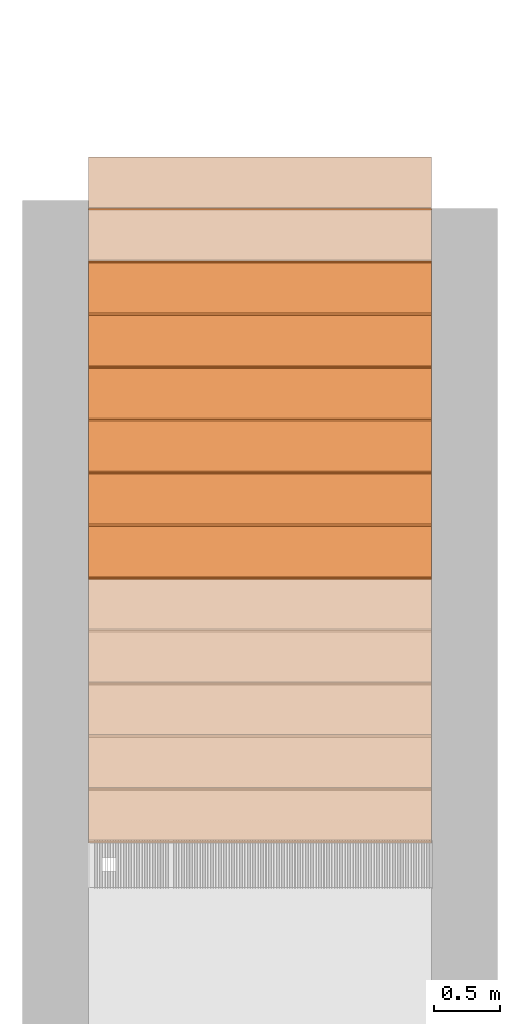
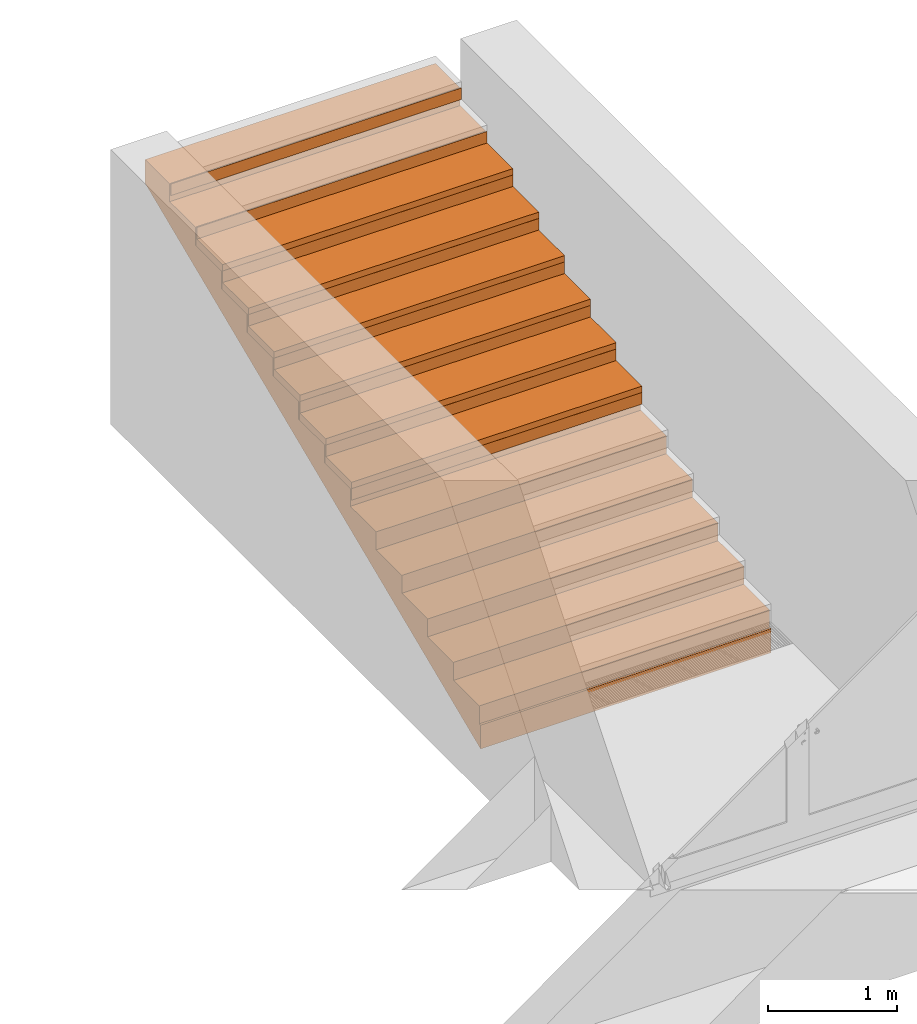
# One storey, part 123 of 127: 15 proxies, 1 element without a shape of its own.
"""IFC2X3 building model written with IfcOpenShell, lengths in millimetres."""

from ifc_helpers import new_model, entity, si_unit, converted_unit, derived_unit, money_unit, direction, frame, origin_with_axes, place, context, subcontext, project, spatial, faceted_brep, material, type_object, element, aggregate, save


model = new_model("IFC2X3")

# Units and contexts
model_context = context("Model", 3, precision=1e-05, world=origin_with_axes(), true_north=direction((0.0, 1.0)))
body_context = subcontext(model_context, "Body", "Model", "MODEL_VIEW")
ifc_project = project(units=[si_unit("LENGTHUNIT", "METRE", prefix="MILLI"), si_unit("AREAUNIT", "SQUARE_METRE"), si_unit("VOLUMEUNIT", "CUBIC_METRE"), converted_unit("PLANEANGLEUNIT", "DEGREE", entity("IfcPlaneAngleMeasure", 0.0174532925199), si_unit("PLANEANGLEUNIT", "RADIAN"), dimensions=[0, 0, 0, 0, 0, 0, 0]), si_unit("SOLIDANGLEUNIT", "STERADIAN"), money_unit("EUR"), converted_unit("TIMEUNIT", "Year", entity("IfcTimeMeasure", 31556926.0), si_unit("TIMEUNIT", "SECOND"), dimensions=[0, 0, 1, 0, 0, 0, 0]), si_unit("MASSUNIT", "GRAM", prefix="KILO"), si_unit("THERMODYNAMICTEMPERATUREUNIT", "DEGREE_CELSIUS"), si_unit("LUMINOUSINTENSITYUNIT", "LUMEN"), si_unit("ENERGYUNIT", "JOULE", prefix="MEGA"), derived_unit("THERMALCONDUCTANCEUNIT", [(si_unit("POWERUNIT", "WATT"), 1), (si_unit("LENGTHUNIT", "METRE"), -1), (si_unit("THERMODYNAMICTEMPERATUREUNIT", "KELVIN"), -1)]), derived_unit("SPECIFICHEATCAPACITYUNIT", [(si_unit("ENERGYUNIT", "JOULE"), 1), (si_unit("MASSUNIT", "GRAM", prefix="KILO"), -1), (si_unit("THERMODYNAMICTEMPERATUREUNIT", "KELVIN"), -1)]), derived_unit("MASSDENSITYUNIT", [(si_unit("MASSUNIT", "GRAM", prefix="KILO"), 1), (si_unit("VOLUMEUNIT", "CUBIC_METRE"), -1)])], contexts=[model_context])

# Site, building, storey
site_placement = place(None, origin_with_axes())
site = spatial("IfcSite", under=ifc_project, at=site_placement, Name="Site", CompositionType="ELEMENT")
building_placement = place(site_placement, origin_with_axes())
building = spatial("IfcBuilding", under=site, at=building_placement, Name="Building", CompositionType="ELEMENT")
storey_placement = place(building_placement, origin_with_axes())
storey = spatial("IfcBuildingStorey", under=building, at=storey_placement, Name="1 KORRUS", CompositionType="ELEMENT", Elevation=0.0)

# Stair, proxies
stair_placement = place(storey_placement, frame((97308.5591363, 50021.275071, 0.0), z_axis=(0.0, 0.0, 1.0), x_axis=(1.0, 0.0, 0.0)))
stair = element("IfcStair", 1, at=stair_placement, inside=storey, Name="TR 7", ShapeType="STRAIGHT_RUN_STAIR")
ifc_material = material(Name="Betoon - Ol.Olev konstruktsioon")
building_element_proxy_type_1 = type_object("IfcBuildingElementProxyType", Name="BETOON TREPP", PredefinedType="NOTDEFINED")
proxy_1_placement = place(stair_placement, origin_with_axes())
proxy_1 = element("IfcBuildingElementProxy", 2, at=proxy_1_placement, type_object=building_element_proxy_type_1, material=ifc_material, Name="Betoon - Ol.Olev konstruktsioon;  Objekti nimi:", context=body_context, shape_type="Brep", body=[
    faceted_brep([(2600.0, 5120.0, 1870.52931979), (2600.0, 5160.0, 1887.45239672), (2600.0, 5200.0, 1904.37547364), (2600.0, 5200.0, 2130.0), (2600.0, 4820.0, 2130.0), (2600.0, 4820.0, 1960.76923077), (2600.0, 4420.0, 1960.76923077), (2600.0, 4420.0, 1791.53846154), (2600.0, 4020.0, 1791.53846154), (2600.0, 4020.0, 1622.30769231), (2600.0, 3620.0, 1622.30769231), (2600.0, 3620.0, 1453.07692308), (2600.0, 3220.0, 1453.07692308), (2600.0, 3220.0, 1283.84615385), (2600.0, 2820.0, 1283.84615385), (2600.0, 2820.0, 1114.61538462), (2600.0, 2420.0, 1114.61538462), (2600.0, 2420.0, 945.384615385), (2600.0, 2020.0, 945.384615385), (2600.0, 2020.0, 776.153846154), (2600.0, 1620.0, 776.153846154), (2600.0, 1620.0, 606.923076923), (2600.0, 1220.0, 606.923076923), (2600.0, 1220.0, 437.692307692), (2600.0, 820.0, 437.692307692), (2600.0, 820.0, 268.461538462), (2600.0, 420.0, 268.461538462), (2600.0, 420.0, 99.2307692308), (2600.0, 20.0, 99.2307692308), (2600.0, 20.0, -70.0), (2600.0, 0.0, -70.0), (2600.0, 0.0, -295.624526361), (2600.0, 40.0, -278.701449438), (2600.0, 80.0, -261.778372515), (2600.0, 120.0, -244.855295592), (2600.0, 160.0, -227.932218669), (2600.0, 200.0, -211.009141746), (2600.0, 240.0, -194.086064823), (2600.0, 280.0, -177.1629879), (2600.0, 320.0, -160.239910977), (2600.0, 360.0, -143.316834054), (2600.0, 400.0, -126.393757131), (2600.0, 450.0, -105.239910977), (2600.0, 500.0, -84.086064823), (2600.0, 550.0, -62.9322186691), (2600.0, 600.0, -41.7783725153), (2600.0, 650.0, -20.6245263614), (2600.0, 700.0, 0.529319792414), (2600.0, 750.0, 21.6831659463), (2600.0, 800.0, 42.8370121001), (2600.0, 840.0, 59.7600890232), (2600.0, 880.0, 76.6831659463), (2600.0, 920.0, 93.6062428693), (2600.0, 960.0, 110.529319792), (2600.0, 1000.0, 127.452396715), (2600.0, 1040.0, 144.375473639), (2600.0, 1080.0, 161.298550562), (2600.0, 1120.0, 178.221627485), (2600.0, 1160.0, 195.144704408), (2600.0, 1200.0, 212.067781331), (2600.0, 1250.0, 233.221627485), (2600.0, 1300.0, 254.375473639), (2600.0, 1350.0, 275.529319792), (2600.0, 1400.0, 296.683165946), (2600.0, 1450.0, 317.8370121), (2600.0, 1500.0, 338.990858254), (2600.0, 1550.0, 360.144704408), (2600.0, 1600.0, 381.298550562), (2600.0, 1650.0, 402.452396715), (2600.0, 1700.0, 423.606242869), (2600.0, 1750.0, 444.760089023), (2600.0, 1800.0, 465.913935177), (2600.0, 1850.0, 487.067781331), (2600.0, 1900.0, 508.221627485), (2600.0, 1950.0, 529.375473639), (2600.0, 2000.0, 550.529319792), (2600.0, 2040.0, 567.452396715), (2600.0, 2080.0, 584.375473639), (2600.0, 2120.0, 601.298550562), (2600.0, 2160.0, 618.221627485), (2600.0, 2200.0, 635.144704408), (2600.0, 2240.0, 652.067781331), (2600.0, 2280.0, 668.990858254), (2600.0, 2320.0, 685.913935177), (2600.0, 2360.0, 702.8370121), (2600.0, 2400.0, 719.760089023), (2600.0, 2450.0, 740.913935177), (2600.0, 2500.0, 762.067781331), (2600.0, 2550.0, 783.221627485), (2600.0, 2600.0, 804.375473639), (2600.0, 2650.0, 825.529319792), (2600.0, 2700.0, 846.683165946), (2600.0, 2750.0, 867.8370121), (2600.0, 2800.0, 888.990858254), (2600.0, 2850.0, 910.144704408), (2600.0, 2900.0, 931.298550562), (2600.0, 2950.0, 952.452396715), (2600.0, 3000.0, 973.606242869), (2600.0, 3050.0, 994.760089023), (2600.0, 3100.0, 1015.91393518), (2600.0, 3150.0, 1037.06778133), (2600.0, 3200.0, 1058.22162748), (2600.0, 3250.0, 1079.37547364), (2600.0, 3300.0, 1100.52931979), (2600.0, 3350.0, 1121.68316595), (2600.0, 3400.0, 1142.8370121), (2600.0, 3450.0, 1163.99085825), (2600.0, 3500.0, 1185.14470441), (2600.0, 3550.0, 1206.29855056), (2600.0, 3600.0, 1227.45239672), (2600.0, 3650.0, 1248.60624287), (2600.0, 3700.0, 1269.76008902), (2600.0, 3750.0, 1290.91393518), (2600.0, 3800.0, 1312.06778133), (2600.0, 3850.0, 1333.22162748), (2600.0, 3900.0, 1354.37547364), (2600.0, 3950.0, 1375.52931979), (2600.0, 4000.0, 1396.68316595), (2600.0, 4040.0, 1413.60624287), (2600.0, 4080.0, 1430.52931979), (2600.0, 4120.0, 1447.45239672), (2600.0, 4160.0, 1464.37547364), (2600.0, 4200.0, 1481.29855056), (2600.0, 4240.0, 1498.22162748), (2600.0, 4280.0, 1515.14470441), (2600.0, 4320.0, 1532.06778133), (2600.0, 4360.0, 1548.99085825), (2600.0, 4400.0, 1565.91393518), (2600.0, 4440.0, 1582.8370121), (2600.0, 4480.0, 1599.76008902), (2600.0, 4520.0, 1616.68316595), (2600.0, 4560.0, 1633.60624287), (2600.0, 4600.0, 1650.52931979), (2600.0, 4640.0, 1667.45239672), (2600.0, 4680.0, 1684.37547364), (2600.0, 4720.0, 1701.29855056), (2600.0, 4760.0, 1718.22162748), (2600.0, 4800.0, 1735.14470441), (2600.0, 4840.0, 1752.06778133), (2600.0, 4880.0, 1768.99085825), (2600.0, 4920.0, 1785.91393518), (2600.0, 4960.0, 1802.8370121), (2600.0, 5000.0, 1819.76008902), (2600.0, 5040.0, 1836.68316595), (2600.0, 5080.0, 1853.60624287), (1300.0, 5120.0, 1870.52931979), (0.0, 5200.0, 1904.37547364), (0.0, 5160.0, 1887.45239672), (0.0, 5200.0, 2130.0), (0.0, 4820.0, 2130.0), (0.0, 4820.0, 1960.76923077), (0.0, 4420.0, 1960.76923077), (0.0, 4420.0, 1791.53846154), (0.0, 4020.0, 1791.53846154), (0.0, 4020.0, 1622.30769231), (0.0, 3620.0, 1622.30769231), (0.0, 3620.0, 1453.07692308), (0.0, 3220.0, 1453.07692308), (0.0, 3220.0, 1283.84615385), (0.0, 2820.0, 1283.84615385), (0.0, 2820.0, 1114.61538462), (0.0, 2420.0, 1114.61538462), (0.0, 2420.0, 945.384615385), (0.0, 2020.0, 945.384615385), (0.0, 2020.0, 776.153846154), (0.0, 1620.0, 776.153846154), (0.0, 1620.0, 606.923076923), (0.0, 1220.0, 606.923076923), (0.0, 1220.0, 437.692307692), (0.0, 820.0, 437.692307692), (0.0, 820.0, 268.461538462), (0.0, 420.0, 268.461538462), (0.0, 420.0, 99.2307692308), (0.0, 20.0, 99.2307692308), (0.0, 20.0, -70.0), (0.0, 0.0, -70.0), (0.0, 0.0, -295.624526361), (1300.0, 80.0, -261.778372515), (0.0, 40.0, -278.701449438), (1300.0, 160.0, -227.932218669), (1300.0, 240.0, -194.086064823), (1300.0, 320.0, -160.239910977), (1300.0, 400.0, -126.393757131), (1300.0, 500.0, -84.086064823), (1300.0, 600.0, -41.7783725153), (1300.0, 700.0, 0.529319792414), (1300.0, 800.0, 42.8370121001), (1300.0, 880.0, 76.6831659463), (1300.0, 960.0, 110.529319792), (1300.0, 1040.0, 144.375473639), (1300.0, 1120.0, 178.221627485), (1300.0, 1200.0, 212.067781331), (1300.0, 1300.0, 254.375473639), (1300.0, 1400.0, 296.683165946), (1300.0, 1500.0, 338.990858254), (1300.0, 1600.0, 381.298550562), (1300.0, 1700.0, 423.606242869), (1300.0, 1800.0, 465.913935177), (1300.0, 1900.0, 508.221627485), (1300.0, 2000.0, 550.529319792), (1300.0, 2080.0, 584.375473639), (1300.0, 2160.0, 618.221627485), (1300.0, 2240.0, 652.067781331), (1300.0, 2320.0, 685.913935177), (1300.0, 2400.0, 719.760089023), (1300.0, 2500.0, 762.067781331), (1300.0, 2600.0, 804.375473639), (1300.0, 2700.0, 846.683165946), (1300.0, 2800.0, 888.990858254), (1300.0, 2900.0, 931.298550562), (1300.0, 3000.0, 973.606242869), (1300.0, 3100.0, 1015.91393518), (1300.0, 3200.0, 1058.22162748), (1300.0, 3300.0, 1100.52931979), (1300.0, 3400.0, 1142.8370121), (1300.0, 3500.0, 1185.14470441), (1300.0, 3600.0, 1227.45239672), (1300.0, 3700.0, 1269.76008902), (1300.0, 3800.0, 1312.06778133), (1300.0, 3900.0, 1354.37547364), (1300.0, 4000.0, 1396.68316595), (1300.0, 4080.0, 1430.52931979), (1300.0, 4160.0, 1464.37547364), (1300.0, 4240.0, 1498.22162748), (1300.0, 4320.0, 1532.06778133), (1300.0, 4400.0, 1565.91393518), (1300.0, 4480.0, 1599.76008902), (1300.0, 4560.0, 1633.60624287), (1300.0, 4640.0, 1667.45239672), (1300.0, 4720.0, 1701.29855056), (1300.0, 4800.0, 1735.14470441), (1300.0, 4880.0, 1768.99085825), (1300.0, 4960.0, 1802.8370121), (1300.0, 5040.0, 1836.68316595), (0.0, 5120.0, 1870.52931979), (0.0, 80.0, -261.778372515), (0.0, 5080.0, 1853.60624287), (0.0, 5040.0, 1836.68316595), (0.0, 5000.0, 1819.76008902), (0.0, 4960.0, 1802.8370121), (0.0, 4920.0, 1785.91393518), (0.0, 4880.0, 1768.99085825), (0.0, 4840.0, 1752.06778133), (0.0, 4800.0, 1735.14470441), (0.0, 4760.0, 1718.22162748), (0.0, 4720.0, 1701.29855056), (0.0, 4680.0, 1684.37547364), (0.0, 4640.0, 1667.45239672), (0.0, 4600.0, 1650.52931979), (0.0, 4560.0, 1633.60624287), (0.0, 4520.0, 1616.68316595), (0.0, 4480.0, 1599.76008902), (0.0, 4440.0, 1582.8370121), (0.0, 4400.0, 1565.91393518), (0.0, 4360.0, 1548.99085825), (0.0, 4320.0, 1532.06778133), (0.0, 4280.0, 1515.14470441), (0.0, 4240.0, 1498.22162748), (0.0, 4200.0, 1481.29855056), (0.0, 4160.0, 1464.37547364), (0.0, 4120.0, 1447.45239672), (0.0, 4080.0, 1430.52931979), (0.0, 4040.0, 1413.60624287), (0.0, 4000.0, 1396.68316595), (0.0, 3950.0, 1375.52931979), (0.0, 3900.0, 1354.37547364), (0.0, 3850.0, 1333.22162748), (0.0, 3800.0, 1312.06778133), (0.0, 3750.0, 1290.91393518), (0.0, 3700.0, 1269.76008902), (0.0, 3650.0, 1248.60624287), (0.0, 3600.0, 1227.45239672), (0.0, 3550.0, 1206.29855056), (0.0, 3500.0, 1185.14470441), (0.0, 3450.0, 1163.99085825), (0.0, 3400.0, 1142.8370121), (0.0, 3350.0, 1121.68316595), (0.0, 3300.0, 1100.52931979), (0.0, 3250.0, 1079.37547364), (0.0, 3200.0, 1058.22162748), (0.0, 3150.0, 1037.06778133), (0.0, 3100.0, 1015.91393518), (0.0, 3050.0, 994.760089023), (0.0, 3000.0, 973.606242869), (0.0, 2950.0, 952.452396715), (0.0, 2900.0, 931.298550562), (0.0, 2850.0, 910.144704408), (0.0, 2800.0, 888.990858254), (0.0, 2750.0, 867.8370121), (0.0, 2700.0, 846.683165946), (0.0, 2650.0, 825.529319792), (0.0, 2600.0, 804.375473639), (0.0, 2550.0, 783.221627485), (0.0, 2500.0, 762.067781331), (0.0, 2450.0, 740.913935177), (0.0, 2400.0, 719.760089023), (0.0, 2360.0, 702.8370121), (0.0, 2320.0, 685.913935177), (0.0, 2280.0, 668.990858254), (0.0, 2240.0, 652.067781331), (0.0, 2200.0, 635.144704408), (0.0, 2160.0, 618.221627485), (0.0, 2120.0, 601.298550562), (0.0, 2080.0, 584.375473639), (0.0, 2040.0, 567.452396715), (0.0, 2000.0, 550.529319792), (0.0, 1950.0, 529.375473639), (0.0, 1900.0, 508.221627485), (0.0, 1850.0, 487.067781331), (0.0, 1800.0, 465.913935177), (0.0, 1750.0, 444.760089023), (0.0, 1700.0, 423.606242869), (0.0, 1650.0, 402.452396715), (0.0, 1600.0, 381.298550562), (0.0, 1550.0, 360.144704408), (0.0, 1500.0, 338.990858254), (0.0, 1450.0, 317.8370121), (0.0, 1400.0, 296.683165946), (0.0, 1350.0, 275.529319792), (0.0, 1300.0, 254.375473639), (0.0, 1250.0, 233.221627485), (0.0, 1200.0, 212.067781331), (0.0, 1160.0, 195.144704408), (0.0, 1120.0, 178.221627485), (0.0, 1080.0, 161.298550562), (0.0, 1040.0, 144.375473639), (0.0, 1000.0, 127.452396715), (0.0, 960.0, 110.529319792), (0.0, 920.0, 93.6062428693), (0.0, 880.0, 76.6831659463), (0.0, 840.0, 59.7600890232), (0.0, 800.0, 42.8370121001), (0.0, 750.0, 21.6831659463), (0.0, 700.0, 0.529319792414), (0.0, 650.0, -20.6245263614), (0.0, 600.0, -41.7783725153), (0.0, 550.0, -62.9322186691), (0.0, 500.0, -84.086064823), (0.0, 450.0, -105.239910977), (0.0, 400.0, -126.393757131), (0.0, 360.0, -143.316834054), (0.0, 320.0, -160.239910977), (0.0, 280.0, -177.1629879), (0.0, 240.0, -194.086064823), (0.0, 200.0, -211.009141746), (0.0, 160.0, -227.932218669), (0.0, 120.0, -244.855295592)], [[[0, 1, 2, 3, 4, 5, 6, 7, 8, 9, 10, 11, 12, 13, 14, 15, 16, 17, 18, 19, 20, 21, 22, 23, 24, 25, 26, 27, 28, 29, 30, 31, 32, 33, 34, 35, 36, 37, 38, 39, 40, 41, 42, 43, 44, 45, 46, 47, 48, 49, 50, 51, 52, 53, 54, 55, 56, 57, 58, 59, 60, 61, 62, 63, 64, 65, 66, 67, 68, 69, 70, 71, 72, 73, 74, 75, 76, 77, 78, 79, 80, 81, 82, 83, 84, 85, 86, 87, 88, 89, 90, 91, 92, 93, 94, 95, 96, 97, 98, 99, 100, 101, 102, 103, 104, 105, 106, 107, 108, 109, 110, 111, 112, 113, 114, 115, 116, 117, 118, 119, 120, 121, 122, 123, 124, 125, 126, 127, 128, 129, 130, 131, 132, 133, 134, 135, 136, 137, 138, 139, 140, 141, 142, 143, 144]], [[145, 1, 0]], [[146, 2, 1, 145, 147]], [[3, 2, 146, 148]], [[3, 148, 149, 4]], [[149, 150, 5, 4]], [[151, 6, 5, 150]], [[151, 152, 7, 6]], [[153, 8, 7, 152]], [[153, 154, 9, 8]], [[155, 10, 9, 154]], [[155, 156, 11, 10]], [[157, 12, 11, 156]], [[157, 158, 13, 12]], [[159, 14, 13, 158]], [[159, 160, 15, 14]], [[161, 16, 15, 160]], [[161, 162, 17, 16]], [[163, 18, 17, 162]], [[163, 164, 19, 18]], [[165, 20, 19, 164]], [[165, 166, 21, 20]], [[167, 22, 21, 166]], [[167, 168, 23, 22]], [[169, 24, 23, 168]], [[169, 170, 25, 24]], [[171, 26, 25, 170]], [[171, 172, 27, 26]], [[173, 28, 27, 172]], [[173, 174, 29, 28]], [[174, 175, 30, 29]], [[175, 176, 31, 30]], [[177, 32, 31, 176, 178]], [[177, 33, 32]], [[177, 34, 33]], [[179, 35, 34]], [[179, 36, 35]], [[180, 37, 36]], [[180, 38, 37]], [[181, 39, 38]], [[181, 40, 39]], [[182, 41, 40]], [[182, 42, 41]], [[183, 43, 42]], [[183, 44, 43]], [[184, 45, 44]], [[184, 46, 45]], [[185, 47, 46]], [[185, 48, 47]], [[186, 49, 48]], [[186, 50, 49]], [[187, 51, 50]], [[187, 52, 51]], [[188, 53, 52]], [[188, 54, 53]], [[189, 55, 54]], [[189, 56, 55]], [[190, 57, 56]], [[190, 58, 57]], [[191, 59, 58]], [[191, 60, 59]], [[192, 61, 60]], [[192, 62, 61]], [[193, 63, 62]], [[193, 64, 63]], [[194, 65, 64]], [[194, 66, 65]], [[195, 67, 66]], [[195, 68, 67]], [[196, 69, 68]], [[196, 70, 69]], [[197, 71, 70]], [[197, 72, 71]], [[198, 73, 72]], [[198, 74, 73]], [[199, 75, 74]], [[199, 76, 75]], [[200, 77, 76]], [[200, 78, 77]], [[201, 79, 78]], [[201, 80, 79]], [[202, 81, 80]], [[202, 82, 81]], [[203, 83, 82]], [[203, 84, 83]], [[204, 85, 84]], [[204, 86, 85]], [[205, 87, 86]], [[205, 88, 87]], [[206, 89, 88]], [[206, 90, 89]], [[207, 91, 90]], [[207, 92, 91]], [[208, 93, 92]], [[208, 94, 93]], [[209, 95, 94]], [[209, 96, 95]], [[210, 97, 96]], [[210, 98, 97]], [[211, 99, 98]], [[211, 100, 99]], [[212, 101, 100]], [[212, 102, 101]], [[213, 103, 102]], [[213, 104, 103]], [[214, 105, 104]], [[214, 106, 105]], [[215, 107, 106]], [[215, 108, 107]], [[216, 109, 108]], [[216, 110, 109]], [[217, 111, 110]], [[217, 112, 111]], [[218, 113, 112]], [[218, 114, 113]], [[219, 115, 114]], [[219, 116, 115]], [[220, 117, 116]], [[220, 118, 117]], [[221, 119, 118]], [[221, 120, 119]], [[222, 121, 120]], [[222, 122, 121]], [[223, 123, 122]], [[223, 124, 123]], [[224, 125, 124]], [[224, 126, 125]], [[225, 127, 126]], [[225, 128, 127]], [[226, 129, 128]], [[226, 130, 129]], [[227, 131, 130]], [[227, 132, 131]], [[228, 133, 132]], [[228, 134, 133]], [[229, 135, 134]], [[229, 136, 135]], [[230, 137, 136]], [[230, 138, 137]], [[231, 139, 138]], [[231, 140, 139]], [[232, 141, 140]], [[232, 142, 141]], [[233, 143, 142]], [[233, 144, 143]], [[145, 0, 144]], [[145, 234, 147]], [[235, 178, 176, 175, 174, 173, 172, 171, 170, 169, 168, 167, 166, 165, 164, 163, 162, 161, 160, 159, 158, 157, 156, 155, 154, 153, 152, 151, 150, 149, 148, 146, 147, 234, 236, 237, 238, 239, 240, 241, 242, 243, 244, 245, 246, 247, 248, 249, 250, 251, 252, 253, 254, 255, 256, 257, 258, 259, 260, 261, 262, 263, 264, 265, 266, 267, 268, 269, 270, 271, 272, 273, 274, 275, 276, 277, 278, 279, 280, 281, 282, 283, 284, 285, 286, 287, 288, 289, 290, 291, 292, 293, 294, 295, 296, 297, 298, 299, 300, 301, 302, 303, 304, 305, 306, 307, 308, 309, 310, 311, 312, 313, 314, 315, 316, 317, 318, 319, 320, 321, 322, 323, 324, 325, 326, 327, 328, 329, 330, 331, 332, 333, 334, 335, 336, 337, 338, 339, 340, 341, 342, 343, 344, 345, 346]], [[177, 178, 235]], [[179, 34, 177, 346]], [[180, 36, 179, 344]], [[181, 38, 180, 342]], [[340, 182, 40, 181]], [[183, 42, 182, 338]], [[184, 44, 183, 336]], [[185, 46, 184, 334]], [[186, 48, 185, 332]], [[187, 50, 186, 330]], [[188, 52, 187, 328]], [[326, 189, 54, 188]], [[190, 56, 189, 324]], [[191, 58, 190, 322]], [[192, 60, 191, 320]], [[318, 193, 62, 192]], [[194, 64, 193, 316]], [[195, 66, 194, 314]], [[196, 68, 195, 312]], [[197, 70, 196, 310]], [[198, 72, 197, 308]], [[199, 74, 198, 306]], [[200, 76, 199, 304]], [[201, 78, 200, 302]], [[202, 80, 201, 300]], [[203, 82, 202, 298]], [[204, 84, 203, 296]], [[205, 86, 204, 294]], [[206, 88, 205, 292]], [[290, 207, 90, 206]], [[208, 92, 207, 288]], [[209, 94, 208, 286]], [[210, 96, 209, 284]], [[211, 98, 210, 282]], [[212, 100, 211, 280]], [[213, 102, 212, 278]], [[214, 104, 213, 276]], [[215, 106, 214, 274]], [[216, 108, 215, 272]], [[217, 110, 216, 270]], [[218, 112, 217, 268]], [[219, 114, 218, 266]], [[220, 116, 219, 264]], [[221, 118, 220, 262]], [[222, 120, 221, 260]], [[223, 122, 222, 258]], [[224, 124, 223, 256]], [[225, 126, 224, 254]], [[226, 128, 225, 252]], [[227, 130, 226, 250]], [[228, 132, 227, 248]], [[229, 134, 228, 246]], [[230, 136, 229, 244]], [[242, 231, 138, 230]], [[232, 140, 231, 240]], [[238, 233, 142, 232]], [[145, 144, 233, 236]], [[145, 236, 234]], [[233, 237, 236]], [[233, 238, 237]], [[232, 239, 238]], [[232, 240, 239]], [[231, 241, 240]], [[231, 242, 241]], [[230, 243, 242]], [[230, 244, 243]], [[229, 245, 244]], [[229, 246, 245]], [[228, 247, 246]], [[228, 248, 247]], [[227, 249, 248]], [[227, 250, 249]], [[226, 251, 250]], [[226, 252, 251]], [[225, 253, 252]], [[225, 254, 253]], [[224, 255, 254]], [[224, 256, 255]], [[223, 257, 256]], [[223, 258, 257]], [[222, 259, 258]], [[222, 260, 259]], [[221, 261, 260]], [[221, 262, 261]], [[220, 263, 262]], [[220, 264, 263]], [[219, 265, 264]], [[219, 266, 265]], [[218, 267, 266]], [[218, 268, 267]], [[217, 269, 268]], [[217, 270, 269]], [[216, 271, 270]], [[216, 272, 271]], [[215, 273, 272]], [[215, 274, 273]], [[214, 275, 274]], [[214, 276, 275]], [[213, 277, 276]], [[213, 278, 277]], [[212, 279, 278]], [[212, 280, 279]], [[211, 281, 280]], [[211, 282, 281]], [[210, 283, 282]], [[210, 284, 283]], [[209, 285, 284]], [[209, 286, 285]], [[208, 287, 286]], [[208, 288, 287]], [[207, 289, 288]], [[207, 290, 289]], [[206, 291, 290]], [[206, 292, 291]], [[205, 293, 292]], [[205, 294, 293]], [[204, 295, 294]], [[204, 296, 295]], [[203, 297, 296]], [[203, 298, 297]], [[202, 299, 298]], [[202, 300, 299]], [[201, 301, 300]], [[201, 302, 301]], [[200, 303, 302]], [[200, 304, 303]], [[199, 305, 304]], [[199, 306, 305]], [[198, 307, 306]], [[198, 308, 307]], [[197, 309, 308]], [[197, 310, 309]], [[196, 311, 310]], [[196, 312, 311]], [[195, 313, 312]], [[195, 314, 313]], [[194, 315, 314]], [[194, 316, 315]], [[193, 317, 316]], [[193, 318, 317]], [[192, 319, 318]], [[192, 320, 319]], [[191, 321, 320]], [[191, 322, 321]], [[190, 323, 322]], [[190, 324, 323]], [[189, 325, 324]], [[189, 326, 325]], [[188, 327, 326]], [[188, 328, 327]], [[187, 329, 328]], [[187, 330, 329]], [[186, 331, 330]], [[186, 332, 331]], [[185, 333, 332]], [[185, 334, 333]], [[184, 335, 334]], [[184, 336, 335]], [[183, 337, 336]], [[183, 338, 337]], [[182, 339, 338]], [[182, 340, 339]], [[181, 341, 340]], [[181, 342, 341]], [[180, 343, 342]], [[180, 344, 343]], [[179, 345, 344]], [[179, 346, 345]], [[177, 235, 346]]]),
])
building_element_proxy_type_2 = type_object("IfcBuildingElementProxyType", Name="SF RISER - 053", PredefinedType="NOTDEFINED")
proxy_2_placement = place(stair_placement, frame((1300.0, 2000.0, 955.384615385), z_axis=(0.0, 0.0, 1.0), x_axis=(1.0, 0.0, 0.0)))
proxy_2 = element("IfcBuildingElementProxy", 3, at=proxy_2_placement, type_object=building_element_proxy_type_2, material=ifc_material, Name=";  Objekti nimi: Riser 22", context=body_context, shape_type="Brep", body=[
    faceted_brep([(1300.0, 0.0, 0.0), (1300.0, 10.0, 0.0), (-1300.0, 10.0, 0.0), (-1300.0, 0.0, 0.0), (1300.0, 0.0, -109.230769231), (1300.0, 10.0, -109.230769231), (-1300.0, 10.0, -109.230769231), (-1300.0, 0.0, -109.230769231)], [[[0, 1, 2, 3]], [[0, 4, 5, 1]], [[1, 5, 6, 2]], [[3, 2, 6, 7]], [[4, 0, 3, 7]], [[5, 4, 7, 6]]]),
])
proxy_3_placement = place(stair_placement, frame((1300.0, 2400.0, 1124.61538462), z_axis=(0.0, 0.0, 1.0), x_axis=(1.0, 0.0, 0.0)))
proxy_3 = element("IfcBuildingElementProxy", 4, at=proxy_3_placement, type_object=building_element_proxy_type_2, material=ifc_material, Name=";  Objekti nimi: Riser 22", context=body_context, shape_type="Brep", body=[
    faceted_brep([(1300.0, 0.0, 0.0), (1300.0, 10.0, 0.0), (-1300.0, 10.0, 0.0), (-1300.0, 0.0, 0.0), (1300.0, 0.0, -109.230769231), (1300.0, 10.0, -109.230769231), (-1300.0, 10.0, -109.230769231), (-1300.0, 0.0, -109.230769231)], [[[0, 1, 2, 3]], [[0, 4, 5, 1]], [[1, 5, 6, 2]], [[3, 2, 6, 7]], [[4, 0, 3, 7]], [[5, 4, 7, 6]]]),
])
proxy_4_placement = place(stair_placement, frame((1300.0, 2800.0, 1293.84615385), z_axis=(0.0, 0.0, 1.0), x_axis=(1.0, 0.0, 0.0)))
proxy_4 = element("IfcBuildingElementProxy", 5, at=proxy_4_placement, type_object=building_element_proxy_type_2, material=ifc_material, Name=";  Objekti nimi: Riser 22", context=body_context, shape_type="Brep", body=[
    faceted_brep([(1300.0, 0.0, 0.0), (1300.0, 10.0, 0.0), (-1300.0, 10.0, 0.0), (-1300.0, 0.0, 0.0), (1300.0, 0.0, -109.230769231), (1300.0, 10.0, -109.230769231), (-1300.0, 10.0, -109.230769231), (-1300.0, 0.0, -109.230769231)], [[[0, 1, 2, 3]], [[0, 4, 5, 1]], [[1, 5, 6, 2]], [[3, 2, 6, 7]], [[4, 0, 3, 7]], [[5, 4, 7, 6]]]),
])
proxy_5_placement = place(stair_placement, frame((1300.0, 3200.0, 1463.07692308), z_axis=(0.0, 0.0, 1.0), x_axis=(1.0, 0.0, 0.0)))
proxy_5 = element("IfcBuildingElementProxy", 6, at=proxy_5_placement, type_object=building_element_proxy_type_2, material=ifc_material, Name=";  Objekti nimi: Riser 22", context=body_context, shape_type="Brep", body=[
    faceted_brep([(1300.0, 0.0, 0.0), (1300.0, 10.0, 0.0), (-1300.0, 10.0, 0.0), (-1300.0, 0.0, 0.0), (1300.0, 0.0, -109.230769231), (1300.0, 10.0, -109.230769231), (-1300.0, 10.0, -109.230769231), (-1300.0, 0.0, -109.230769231)], [[[0, 1, 2, 3]], [[0, 4, 5, 1]], [[1, 5, 6, 2]], [[3, 2, 6, 7]], [[4, 0, 3, 7]], [[5, 4, 7, 6]]]),
])
proxy_6_placement = place(stair_placement, frame((1300.0, 3600.0, 1632.30769231), z_axis=(0.0, 0.0, 1.0), x_axis=(1.0, 0.0, 0.0)))
proxy_6 = element("IfcBuildingElementProxy", 7, at=proxy_6_placement, type_object=building_element_proxy_type_2, material=ifc_material, Name=";  Objekti nimi: Riser 22", context=body_context, shape_type="Brep", body=[
    faceted_brep([(1300.0, 0.0, 0.0), (1300.0, 10.0, 0.0), (-1300.0, 10.0, 0.0), (-1300.0, 0.0, 0.0), (1300.0, 0.0, -109.230769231), (1300.0, 10.0, -109.230769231), (-1300.0, 10.0, -109.230769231), (-1300.0, 0.0, -109.230769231)], [[[0, 1, 2, 3]], [[0, 4, 5, 1]], [[1, 5, 6, 2]], [[3, 2, 6, 7]], [[4, 0, 3, 7]], [[5, 4, 7, 6]]]),
])
proxy_7_placement = place(stair_placement, frame((1300.0, 4000.0, 1801.53846154), z_axis=(0.0, 0.0, 1.0), x_axis=(1.0, 0.0, 0.0)))
proxy_7 = element("IfcBuildingElementProxy", 8, at=proxy_7_placement, type_object=building_element_proxy_type_2, material=ifc_material, Name=";  Objekti nimi: Riser 22", context=body_context, shape_type="Brep", body=[
    faceted_brep([(1300.0, 0.0, 0.0), (1300.0, 10.0, 0.0), (-1300.0, 10.0, 0.0), (-1300.0, 0.0, 0.0), (1300.0, 0.0, -109.230769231), (1300.0, 10.0, -109.230769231), (-1300.0, 10.0, -109.230769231), (-1300.0, 0.0, -109.230769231)], [[[0, 1, 2, 3]], [[0, 4, 5, 1]], [[1, 5, 6, 2]], [[3, 2, 6, 7]], [[4, 0, 3, 7]], [[5, 4, 7, 6]]]),
])
building_element_proxy_type_3 = type_object("IfcBuildingElementProxyType", Name="SF RISER - 054", PredefinedType="NOTDEFINED")
proxy_8_placement = place(stair_placement, frame((1300.0, 4400.0, 1970.76923077), z_axis=(0.0, 0.0, 1.0), x_axis=(1.0, 0.0, 0.0)))
proxy_8 = element("IfcBuildingElementProxy", 9, at=proxy_8_placement, type_object=building_element_proxy_type_3, material=ifc_material, Name=";  Objekti nimi: Riser 22", context=body_context, shape_type="Brep", body=[
    faceted_brep([(1300.0, 0.0, 0.0), (1300.0, 10.0, 0.0), (-1300.0, 10.0, 0.0), (-1300.0, 0.0, 0.0), (1300.0, 0.0, -109.230769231), (1300.0, 10.0, -109.230769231), (-1300.0, 10.0, -109.230769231), (-1300.0, 0.0, -109.230769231)], [[[0, 1, 2, 3]], [[0, 4, 5, 1]], [[1, 5, 6, 2]], [[3, 2, 6, 7]], [[4, 0, 3, 7]], [[5, 4, 7, 6]]]),
])
building_element_proxy_type_4 = type_object("IfcBuildingElementProxyType", Name="SF RISER - 055", PredefinedType="NOTDEFINED")
proxy_9_placement = place(stair_placement, frame((1300.0, 4800.0, 2140.0), z_axis=(0.0, 0.0, 1.0), x_axis=(1.0, 0.0, 0.0)))
proxy_9 = element("IfcBuildingElementProxy", 10, at=proxy_9_placement, type_object=building_element_proxy_type_4, material=ifc_material, Name=";  Objekti nimi: Riser 22", context=body_context, shape_type="Brep", body=[
    faceted_brep([(1300.0, 0.0, 0.0), (1300.0, 10.0, 0.0), (-1300.0, 10.0, 0.0), (-1300.0, 0.0, 0.0), (1300.0, 0.0, -109.230769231), (1300.0, 10.0, -109.230769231), (-1300.0, 10.0, -109.230769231), (-1300.0, 0.0, -109.230769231)], [[[0, 1, 2, 3]], [[0, 4, 5, 1]], [[1, 5, 6, 2]], [[3, 2, 6, 7]], [[4, 0, 3, 7]], [[5, 4, 7, 6]]]),
])
building_element_proxy_type_5 = type_object("IfcBuildingElementProxyType", Name="SF TREAD - 053", PredefinedType="NOTDEFINED")
proxy_10_placement = place(stair_placement, frame((1300.0, 2000.0, 1015.38461538), z_axis=(0.0, 0.0, 1.0), x_axis=(1.0, 0.0, 0.0)))
proxy_10 = element("IfcBuildingElementProxy", 11, at=proxy_10_placement, type_object=building_element_proxy_type_5, material=ifc_material, Name=";  Objekti nimi: Tread 22", context=body_context, shape_type="Brep", body=[
    faceted_brep([(1300.0, 0.0, -70.0), (-1300.0, 0.0, -70.0), (-1300.0, 410.000017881, -70.0), (1300.0, 410.000017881, -70.0), (1260.0, 40.0, -70.0), (1260.0, 370.000017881, -70.0), (-1260.0, 370.000017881, -70.0), (-1260.0, 40.0, -70.0), (1300.0, 0.0, 0.0), (-1300.0, 0.0, 0.0), (-1300.0, 410.000017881, 0.0), (1300.0, 410.000017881, 0.0), (1260.0, 40.0, -60.0), (1260.0, 370.000017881, -60.0), (-1260.0, 370.000017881, -60.0), (-1260.0, 40.0, -60.0)], [[[0, 1, 2, 3], [4, 5, 6, 7]], [[8, 9, 1, 0]], [[9, 10, 2, 1]], [[10, 11, 3, 2]], [[11, 8, 0, 3]], [[5, 4, 12, 13]], [[6, 5, 13, 14]], [[7, 6, 14, 15]], [[4, 7, 15, 12]], [[11, 10, 9, 8]], [[15, 14, 13, 12]]]),
])
proxy_11_placement = place(stair_placement, frame((1300.0, 2400.0, 1184.61538462), z_axis=(0.0, 0.0, 1.0), x_axis=(1.0, 0.0, 0.0)))
proxy_11 = element("IfcBuildingElementProxy", 12, at=proxy_11_placement, type_object=building_element_proxy_type_5, material=ifc_material, Name=";  Objekti nimi: Tread 22", context=body_context, shape_type="Brep", body=[
    faceted_brep([(1300.0, 0.0, -70.0), (-1300.0, 0.0, -70.0), (-1300.0, 410.000017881, -70.0), (1300.0, 410.000017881, -70.0), (1260.0, 40.0, -70.0), (1260.0, 370.000017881, -70.0), (-1260.0, 370.000017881, -70.0), (-1260.0, 40.0, -70.0), (1300.0, 0.0, 0.0), (-1300.0, 0.0, 0.0), (-1300.0, 410.000017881, 0.0), (1300.0, 410.000017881, 0.0), (1260.0, 40.0, -60.0), (1260.0, 370.000017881, -60.0), (-1260.0, 370.000017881, -60.0), (-1260.0, 40.0, -60.0)], [[[0, 1, 2, 3], [4, 5, 6, 7]], [[8, 9, 1, 0]], [[9, 10, 2, 1]], [[10, 11, 3, 2]], [[11, 8, 0, 3]], [[5, 4, 12, 13]], [[6, 5, 13, 14]], [[7, 6, 14, 15]], [[4, 7, 15, 12]], [[11, 10, 9, 8]], [[15, 14, 13, 12]]]),
])
proxy_12_placement = place(stair_placement, frame((1300.0, 2800.0, 1353.84615385), z_axis=(0.0, 0.0, 1.0), x_axis=(1.0, 0.0, 0.0)))
proxy_12 = element("IfcBuildingElementProxy", 13, at=proxy_12_placement, type_object=building_element_proxy_type_5, material=ifc_material, Name=";  Objekti nimi: Tread 22", context=body_context, shape_type="Brep", body=[
    faceted_brep([(1300.0, 0.0, -70.0), (-1300.0, 0.0, -70.0), (-1300.0, 410.000017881, -70.0), (1300.0, 410.000017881, -70.0), (1260.0, 40.0, -70.0), (1260.0, 370.000017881, -70.0), (-1260.0, 370.000017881, -70.0), (-1260.0, 40.0, -70.0), (1300.0, 0.0, 0.0), (-1300.0, 0.0, 0.0), (-1300.0, 410.000017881, 0.0), (1300.0, 410.000017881, 0.0), (1260.0, 40.0, -60.0), (1260.0, 370.000017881, -60.0), (-1260.0, 370.000017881, -60.0), (-1260.0, 40.0, -60.0)], [[[0, 1, 2, 3], [4, 5, 6, 7]], [[8, 9, 1, 0]], [[9, 10, 2, 1]], [[10, 11, 3, 2]], [[11, 8, 0, 3]], [[5, 4, 12, 13]], [[6, 5, 13, 14]], [[7, 6, 14, 15]], [[4, 7, 15, 12]], [[11, 10, 9, 8]], [[15, 14, 13, 12]]]),
])
proxy_13_placement = place(stair_placement, frame((1300.0, 3200.0, 1523.07692308), z_axis=(0.0, 0.0, 1.0), x_axis=(1.0, 0.0, 0.0)))
proxy_13 = element("IfcBuildingElementProxy", 14, at=proxy_13_placement, type_object=building_element_proxy_type_5, material=ifc_material, Name=";  Objekti nimi: Tread 22", context=body_context, shape_type="Brep", body=[
    faceted_brep([(1300.0, 0.0, -70.0), (-1300.0, 0.0, -70.0), (-1300.0, 410.000017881, -70.0), (1300.0, 410.000017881, -70.0), (1260.0, 40.0, -70.0), (1260.0, 370.000017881, -70.0), (-1260.0, 370.000017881, -70.0), (-1260.0, 40.0, -70.0), (1300.0, 0.0, 0.0), (-1300.0, 0.0, 0.0), (-1300.0, 410.000017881, 0.0), (1300.0, 410.000017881, 0.0), (1260.0, 40.0, -60.0), (1260.0, 370.000017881, -60.0), (-1260.0, 370.000017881, -60.0), (-1260.0, 40.0, -60.0)], [[[0, 1, 2, 3], [4, 5, 6, 7]], [[8, 9, 1, 0]], [[9, 10, 2, 1]], [[10, 11, 3, 2]], [[11, 8, 0, 3]], [[5, 4, 12, 13]], [[6, 5, 13, 14]], [[7, 6, 14, 15]], [[4, 7, 15, 12]], [[11, 10, 9, 8]], [[15, 14, 13, 12]]]),
])
proxy_14_placement = place(stair_placement, frame((1300.0, 3600.0, 1692.30769231), z_axis=(0.0, 0.0, 1.0), x_axis=(1.0, 0.0, 0.0)))
proxy_14 = element("IfcBuildingElementProxy", 15, at=proxy_14_placement, type_object=building_element_proxy_type_5, material=ifc_material, Name=";  Objekti nimi: Tread 22", context=body_context, shape_type="Brep", body=[
    faceted_brep([(1300.0, 0.0, -70.0), (-1300.0, 0.0, -70.0), (-1300.0, 410.000017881, -70.0), (1300.0, 410.000017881, -70.0), (1260.0, 40.0, -70.0), (1260.0, 370.000017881, -70.0), (-1260.0, 370.000017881, -70.0), (-1260.0, 40.0, -70.0), (1300.0, 0.0, 0.0), (-1300.0, 0.0, 0.0), (-1300.0, 410.000017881, 0.0), (1300.0, 410.000017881, 0.0), (1260.0, 40.0, -60.0), (1260.0, 370.000017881, -60.0), (-1260.0, 370.000017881, -60.0), (-1260.0, 40.0, -60.0)], [[[0, 1, 2, 3], [4, 5, 6, 7]], [[8, 9, 1, 0]], [[9, 10, 2, 1]], [[10, 11, 3, 2]], [[11, 8, 0, 3]], [[5, 4, 12, 13]], [[6, 5, 13, 14]], [[7, 6, 14, 15]], [[4, 7, 15, 12]], [[11, 10, 9, 8]], [[15, 14, 13, 12]]]),
])
proxy_15_placement = place(stair_placement, frame((1300.0, 4000.0, 1861.53846154), z_axis=(0.0, 0.0, 1.0), x_axis=(1.0, 0.0, 0.0)))
proxy_15 = element("IfcBuildingElementProxy", 16, at=proxy_15_placement, type_object=building_element_proxy_type_5, material=ifc_material, Name=";  Objekti nimi: Tread 22", context=body_context, shape_type="Brep", body=[
    faceted_brep([(1300.0, 0.0, -70.0), (-1300.0, 0.0, -70.0), (-1300.0, 410.000017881, -70.0), (1300.0, 410.000017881, -70.0), (1260.0, 40.0, -70.0), (1260.0, 370.000017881, -70.0), (-1260.0, 370.000017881, -70.0), (-1260.0, 40.0, -70.0), (1300.0, 0.0, 0.0), (-1300.0, 0.0, 0.0), (-1300.0, 410.000017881, 0.0), (1300.0, 410.000017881, 0.0), (1260.0, 40.0, -60.0), (1260.0, 370.000017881, -60.0), (-1260.0, 370.000017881, -60.0), (-1260.0, 40.0, -60.0)], [[[0, 1, 2, 3], [4, 5, 6, 7]], [[8, 9, 1, 0]], [[9, 10, 2, 1]], [[10, 11, 3, 2]], [[11, 8, 0, 3]], [[5, 4, 12, 13]], [[6, 5, 13, 14]], [[7, 6, 14, 15]], [[4, 7, 15, 12]], [[11, 10, 9, 8]], [[15, 14, 13, 12]]]),
])
aggregate(stair, [proxy_1, proxy_2, proxy_3, proxy_4, proxy_5, proxy_6, proxy_7, proxy_8, proxy_9, proxy_10, proxy_11, proxy_12, proxy_13, proxy_14, proxy_15])

save(model, "model.ifc")
